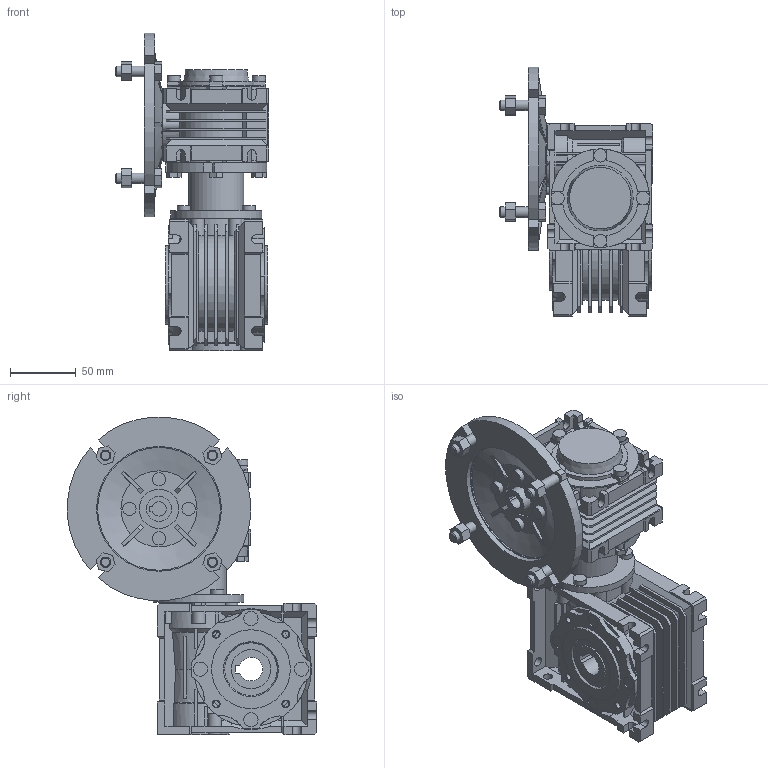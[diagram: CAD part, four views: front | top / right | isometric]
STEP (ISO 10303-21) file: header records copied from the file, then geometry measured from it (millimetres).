
FILE_DESCRIPTION(/* description */ ('STEP AP214'),/* implementation_level */ '2;1');
FILE_NAME(/* name */ 'NMRV-NMRV030-040100 (10x10)22118NO11NO00NO---(--------)',/* time_stamp */ '2024-10-22T09:39:26+02:00',/* author */ ('License CC BY-ND 4.0'),/* organization */ ('CADENAS'),/* preprocessor_version */ 'ST-DEVELOPER v19.3',/* originating_system */ 'PARTsolutions',/* authorisation */ ' ');
FILE_SCHEMA (('AUTOMOTIVE_DESIGN {1 0 10303 214 3 1 1}'));
Length unit declared in the file: millimetre
Products named in the file (13): NMRV-NMRV030-040100 (10x10)22118NO11NO00NO---(--------); 030-040100 (10x10)2214118No11No00NO---(--------)-d; 030-04050 (5x10)22118No11No00NO---d1; 030-04050 (5x10)22118No11No00T0631-d1; Gear unit 40; 040-18 (78)alc-n; VB 040-11 (11); Gear unit 30; 030-14 (63)alc-n; FT 030-040; Hollow shaft 30; VB 030-11 (11); 30-63 B5
Assembly tree (13 placements, depth 2):
  NMRV-NMRV030-040100 (10x10)22118NO11NO00NO---(--------)
    030-040100 (10x10)2214118No11No00NO---(--------)-d
    030-04050 (5x10)22118No11No00NO---d1
    030-04050 (5x10)22118No11No00T0631-d1  x2
    Gear unit 40
    040-18 (78)alc-n
    VB 040-11 (11)
    Gear unit 30
    030-14 (63)alc-n
    FT 030-040
    Hollow shaft 30
    VB 030-11 (11)
    30-63 B5
Bounding box: 117 x 189.77 x 241.77 mm (x, y, z)
Volume: 1163218.4 mm3; surface area: 307915.3 mm2
Topology: 9 solids, 16 shells, 1645 faces, 4397 edges, 2861 vertices
Faces by surface type: plane 1211, cylinder 334, cone 98, torus 2
Full cylindrical faces by diameter (mm): 3.545 x3, 4.65 x3, 4.917 x16, 5.55 x3, 6 x4, 7 x6, 8 x8, 10 x12, 10.8 x4, 16 x1, 19 x2, 23 x2, 24.8 x2, 28 x1, 30 x4, 36 x1, 37 x1, 38 x1, 40 x1, 42 x1, 47 x1, 55 x3, 60 x2, 69 x1, 75 x2, 93.5 x1, 95 x1
Entity records: 61795 total; most frequent: CARTESIAN_POINT 9445, ORIENTED_EDGE 8470, DIRECTION 8322, EDGE_CURVE 4235, LINE 3034, VECTOR 3034, VERTEX_POINT 2837, AXIS2_PLACEMENT_3D 2644
